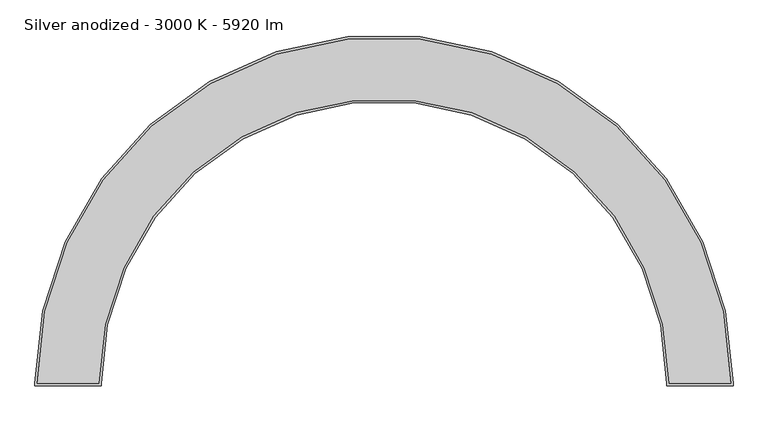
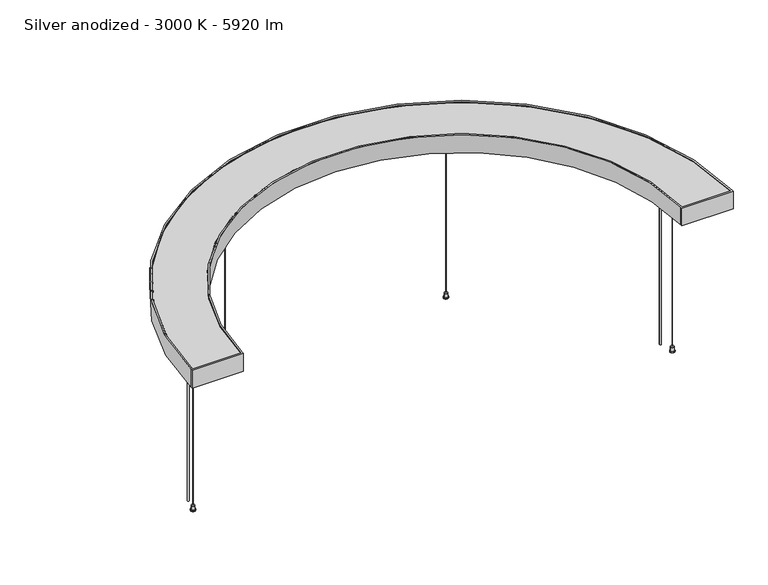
"""IFC4 building model written with IfcOpenShell, lengths in millimetres: light fixture geometry, KLUŚ - MIFOR - MI-SNAKE-06 : Silver anodized - 3000 K - 5920 lm."""

import ifcopenshell
import ifcopenshell.guid

model = None  # the IFC model being written
_history = None  # IfcOwnerHistory: only IFC2X3 demands one
_inside = {}  # id of a spatial element -> (the spatial element, [elements in it])
_under = {}  # id of a project, library or spatial element -> (it, [spatial elements below it])
_declared = {}  # id of a project -> (the project, [libraries it declares])
_typed = {}  # id of a type object -> (the type object, [elements of that type])
_made_of = {}  # id of a material, layer set ... -> (it, [elements and type objects made of it])


def new_model(schema):
    """Start an empty IFC model of exactly this schema.

    Asked for "IFC4X3", IfcOpenShell would pick the latest addendum, in which some entities
    have other attributes; the version numbers below select the first issue.
    IFC2X3 requires an IfcOwnerHistory on every rooted entity: one is made here for all.
    """
    global model, _history
    if schema == "IFC4X3":
        model = ifcopenshell.file(schema_version=(4, 3, 0, 0))
    else:
        model = ifcopenshell.file(schema=schema)
    _inside.clear()
    _under.clear()
    _declared.clear()
    _typed.clear()
    _made_of.clear()
    _history = None
    if model.schema == "IFC2X3":
        org = make("IfcOrganization", Name="unknown")
        user = make(
            "IfcPersonAndOrganization",
            ThePerson=make("IfcPerson", FamilyName="unknown"),
            TheOrganization=org,
        )
        app = make(
            "IfcApplication",
            ApplicationDeveloper=org,
            Version="unknown",
            ApplicationFullName="unknown",
            ApplicationIdentifier="unknown",
        )
        _history = make(
            "IfcOwnerHistory",
            OwningUser=user,
            OwningApplication=app,
            ChangeAction="ADDED",
            CreationDate=0,
        )
    return model


def make(cls, **values):
    """One entity of the class cls with the attributes given. An attribute that is None is left unset."""
    return model.create_entity(
        cls, **{name: value for name, value in values.items() if value is not None}
    )


def rooted(cls, **values):
    """An entity with a GlobalId (a new one), such as an element, a storey or a relation."""
    return make(cls, GlobalId=ifcopenshell.guid.new(), OwnerHistory=_history, **values)


def si_unit(unit_type, name, prefix=None):
    """IfcSIUnit, for example si_unit("LENGTHUNIT", "METRE", prefix="MILLI")."""
    return make("IfcSIUnit", UnitType=unit_type, Prefix=prefix, Name=name)


def assignment(units):
    """IfcUnitAssignment: the units of a project."""
    return None if units is None else make("IfcUnitAssignment", Units=units)


def point(xyz):
    """IfcCartesianPoint."""
    return None if xyz is None else make("IfcCartesianPoint", Coordinates=xyz)


def direction(xyz):
    """IfcDirection."""
    return None if xyz is None else make("IfcDirection", DirectionRatios=xyz)


def frame(location, z_axis=None, x_axis=None):
    """IfcAxis2Placement3D, a coordinate frame: its origin and axes. An axis left out is left unset."""
    return make(
        "IfcAxis2Placement3D",
        Location=point(location),
        Axis=direction(z_axis),
        RefDirection=direction(x_axis),
    )


def frame_2d(location, x_axis=None):
    """IfcAxis2Placement2D, a coordinate frame in the plane: its origin and x axis."""
    return make(
        "IfcAxis2Placement2D", Location=point(location), RefDirection=direction(x_axis)
    )


def origin():
    """The frame at (0, 0, 0) with its axes left unset."""
    return frame((0.0, 0.0, 0.0))


def origin_with_axes():
    """The frame at (0, 0, 0) with the z axis (0, 0, 1) and the x axis (1, 0, 0) written out."""
    return frame((0.0, 0.0, 0.0), z_axis=(0.0, 0.0, 1.0), x_axis=(1.0, 0.0, 0.0))


def place(relative_to, where):
    """IfcLocalPlacement: puts the frame where relative to a parent placement (None: the world)."""
    return make(
        "IfcLocalPlacement", PlacementRelTo=relative_to, RelativePlacement=where
    )


def context(
    kind, dimensions, precision=None, world=None, true_north=None, identifier=None
):
    """IfcGeometricRepresentationContext, for example the 3D "Model" context."""
    return make(
        "IfcGeometricRepresentationContext",
        ContextIdentifier=identifier,
        ContextType=kind,
        CoordinateSpaceDimension=dimensions,
        Precision=precision,
        WorldCoordinateSystem=world,
        TrueNorth=true_north,
    )


def project(units=None, contexts=None):
    """IfcProject with its units and contexts."""
    return rooted(
        "IfcProject",
        Name="project",
        RepresentationContexts=contexts,
        UnitsInContext=assignment(units),
    )


def spatial(cls, under=None, at=None, **own):
    """A site, building, storey or space (cls), placed at a placement, below another one or the project."""
    s = rooted(cls, ObjectPlacement=at, **own)
    if under is not None:
        _under.setdefault(under.id(), (under, []))[1].append(s)
    return s


def polyline(points):
    """IfcPolyline through the points."""
    return make("IfcPolyline", Points=[point(p) for p in points])


def circle_curve(where, radius):
    """IfcCircle in the frame where."""
    return make("IfcCircle", Position=where, Radius=radius)


def trimmed(basis, trim1, trim2, sense, master):
    """IfcTrimmedCurve: the piece of a basis curve between two trims."""
    return make(
        "IfcTrimmedCurve",
        BasisCurve=basis,
        Trim1=trim1,
        Trim2=trim2,
        SenseAgreement=sense,
        MasterRepresentation=master,
    )


def segment(curve, same_sense, transition):
    """IfcCompositeCurveSegment."""
    return make(
        "IfcCompositeCurveSegment",
        Transition=transition,
        SameSense=same_sense,
        ParentCurve=curve,
    )


def composite_curve(segments, self_intersect=None):
    """IfcCompositeCurve: segments joined end to end."""
    return make("IfcCompositeCurve", Segments=segments, SelfIntersect=self_intersect)


def outline(outer, holes=None, kind="AREA"):
    """IfcArbitraryClosedProfileDef: a profile drawn as a closed curve; with holes, ...WithVoids."""
    if holes is None:
        return make("IfcArbitraryClosedProfileDef", ProfileType=kind, OuterCurve=outer)
    return make(
        "IfcArbitraryProfileDefWithVoids",
        ProfileType=kind,
        OuterCurve=outer,
        InnerCurves=holes,
    )


def extrude(swept, where, along, depth):
    """IfcExtrudedAreaSolid: the profile swept, set in the frame where, extruded along a direction by depth."""
    return make(
        "IfcExtrudedAreaSolid",
        SweptArea=swept,
        Position=where,
        ExtrudedDirection=direction(along),
        Depth=depth,
    )


def shape(context_of_items, identifier, shape_type, items):
    """IfcShapeRepresentation: the items that make up one representation, for example the "Body"."""
    return make(
        "IfcShapeRepresentation",
        ContextOfItems=context_of_items,
        RepresentationIdentifier=identifier,
        RepresentationType=shape_type,
        Items=items,
    )


def source(mapping_origin, context_of_items, identifier, shape_type, items):
    """IfcRepresentationMap: a shape defined once, which mapped items show again and again."""
    return make(
        "IfcRepresentationMap",
        MappingOrigin=mapping_origin,
        MappedRepresentation=shape(context_of_items, identifier, shape_type, items),
    )


def transform(
    local_origin,
    x_axis=None,
    y_axis=None,
    z_axis=None,
    scale=None,
    scale2=None,
    scale3=None,
    uniform=True,
):
    """IfcCartesianTransformationOperator3D, or its non-uniform kind. x_axis, y_axis, z_axis: its Axis1, 2, 3."""
    if uniform:
        return make(
            "IfcCartesianTransformationOperator3D",
            Axis1=direction(x_axis),
            Axis2=direction(y_axis),
            LocalOrigin=point(local_origin),
            Scale=scale,
            Axis3=direction(z_axis),
        )
    return make(
        "IfcCartesianTransformationOperator3DnonUniform",
        Axis1=direction(x_axis),
        Axis2=direction(y_axis),
        LocalOrigin=point(local_origin),
        Scale=scale,
        Axis3=direction(z_axis),
        Scale2=scale2,
        Scale3=scale3,
    )


def mapped(mapping_source, mapping_target):
    """IfcMappedItem: shows the shape of a source again, moved by a transform."""
    return make(
        "IfcMappedItem", MappingSource=mapping_source, MappingTarget=mapping_target
    )


def made_of(thing, what):
    """Note that an element or type object is made of a material, layer set ...; save() writes the relation."""
    if what is not None:
        _made_of.setdefault(what.id(), (what, []))[1].append(thing)
    return thing


def element(
    cls,
    number,
    at=None,
    inside=None,
    cuts=None,
    type_object=None,
    material=None,
    context=None,
    identifier="Body",
    shape_type=None,
    held_by="IfcProductDefinitionShape",
    body=None,
    shapes=None,
    **own,
):
    """One element of the class cls, such as IfcWall. Its Tag is "e" and its number.

    at: its placement. inside: the storey or other place that contains it. cuts: it is an
    opening in that element (IfcRelVoidsElement). A single representation is given by context,
    identifier, shape_type and body (its items); several are given by shapes. held_by: the class
    of the entity that holds the representations. save() writes the other relations.
    """
    e = rooted(cls, Tag="e%d" % number, ObjectPlacement=at, **own)
    if body is not None:
        shapes = [shape(context, identifier, shape_type, body)]
    if shapes is not None:
        e.Representation = make(held_by, Representations=shapes)
    if inside is not None:
        _inside.setdefault(inside.id(), (inside, []))[1].append(e)
    if cuts is not None:
        rooted(
            "IfcRelVoidsElement", RelatingBuildingElement=cuts, RelatedOpeningElement=e
        )
    if type_object is not None:
        _typed.setdefault(type_object.id(), (type_object, []))[1].append(e)
    return made_of(e, material)


def aggregate(whole, parts):
    """IfcRelAggregates: a whole, such as a stair, and the parts it consists of."""
    return rooted("IfcRelAggregates", RelatingObject=whole, RelatedObjects=parts)


def save(model, path):
    """Write the relations noted so far, then the file.

    IfcRelAggregates (storeys below a building ...), IfcRelContainedInSpatialStructure (elements
    in a storey), IfcRelDefinesByType, IfcRelAssociatesMaterial and IfcRelDeclares: one each for
    every whole, place, type object, material and project.
    """
    for whole, parts in _under.values():
        aggregate(whole, parts)
    for where, things in _inside.values():
        rooted(
            "IfcRelContainedInSpatialStructure",
            RelatedElements=things,
            RelatingStructure=where,
        )
    for kind, things in _typed.values():
        rooted("IfcRelDefinesByType", RelatedObjects=things, RelatingType=kind)
    for what, things in _made_of.values():
        rooted("IfcRelAssociatesMaterial", RelatedObjects=things, RelatingMaterial=what)
    for by, libraries in _declared.values():
        rooted("IfcRelDeclares", RelatingContext=by, RelatedDefinitions=libraries)
    model.write(path)


def silver_anodized_3000_k_5920_lm_ace6beb4(model_context):
    return source(origin(), model_context, "Body", "SweptSolid", [
        extrude(outline(composite_curve([segment(trimmed(circle_curve(frame_2d((-699.8305152, -246.0)), 1.75), [point((-698.0805152, -246.0))], [point((-701.5805152, -246.0))], False, "CARTESIAN"), True, "CONTINUOUS"), segment(trimmed(circle_curve(frame_2d((-699.8305152, -246.0)), 1.75), [point((-701.5805152, -246.0))], [point((-698.0805152, -246.0))], False, "CARTESIAN"), True, "CONTINUOUS")], self_intersect=False)), frame((0.0, 0.0, 500.5), z_axis=(0.0, 0.0, 1.0), x_axis=(1.0, 0.0, 0.0)), (0.0, 0.0, 1.0), 3.5),
        extrude(outline(composite_curve([segment(trimmed(circle_curve(frame_2d((-322.7701934, 245.5003152)), 1.75), [point((-321.0201934, 245.5003152))], [point((-324.5201934, 245.5003152))], False, "CARTESIAN"), True, "CONTINUOUS"), segment(trimmed(circle_curve(frame_2d((-322.7701934, 245.5003152)), 1.75), [point((-324.5201934, 245.5003152))], [point((-321.0201934, 245.5003152))], False, "CARTESIAN"), True, "CONTINUOUS")], self_intersect=False)), frame((0.0, 0.0, 500.5), z_axis=(0.0, 0.0, 1.0), x_axis=(1.0, 0.0, 0.0)), (0.0, 0.0, 1.0), 3.5),
        extrude(outline(composite_curve([segment(trimmed(circle_curve(frame_2d((699.8305152, -246.0)), 1.75), [point((701.5805152, -246.0))], [point((698.0805152, -246.0))], False, "CARTESIAN"), True, "CONTINUOUS"), segment(trimmed(circle_curve(frame_2d((699.8305152, -246.0)), 1.75), [point((698.0805152, -246.0))], [point((701.5805152, -246.0))], False, "CARTESIAN"), True, "CONTINUOUS")], self_intersect=False)), frame((0.0, 0.0, 500.5), z_axis=(0.0, 0.0, 1.0), x_axis=(1.0, 0.0, 0.0)), (0.0, 0.0, 1.0), 3.5),
        extrude(outline(composite_curve([segment(trimmed(circle_curve(frame_2d((322.7701934, 245.5003152)), 1.75), [point((324.5201934, 245.5003152))], [point((321.0201934, 245.5003152))], False, "CARTESIAN"), True, "CONTINUOUS"), segment(trimmed(circle_curve(frame_2d((322.7701934, 245.5003152)), 1.75), [point((321.0201934, 245.5003152))], [point((324.5201934, 245.5003152))], False, "CARTESIAN"), True, "CONTINUOUS")], self_intersect=False)), frame((0.0, 0.0, 500.5), z_axis=(0.0, 0.0, 1.0), x_axis=(1.0, 0.0, 0.0)), (0.0, 0.0, 1.0), 3.5),
        extrude(outline(composite_curve([segment(trimmed(circle_curve(frame_2d((-699.8305152, -246.0)), 5.0), [point((-694.8305152, -246.0))], [point((-704.8305152, -246.0))], False, "CARTESIAN"), True, "CONTINUOUS"), segment(trimmed(circle_curve(frame_2d((-699.8305152, -246.0)), 5.0), [point((-704.8305152, -246.0))], [point((-694.8305152, -246.0))], False, "CARTESIAN"), True, "CONTINUOUS")], self_intersect=False)), frame((0.0, 0.0, 3.0), z_axis=(0.0, 0.0, 1.0), x_axis=(1.0, 0.0, 0.0)), (0.0, 0.0, 1.0), 12.0),
        extrude(outline(composite_curve([segment(trimmed(circle_curve(frame_2d((-322.7701934, 245.5003152)), 5.0), [point((-317.7701934, 245.5003152))], [point((-327.7701934, 245.5003152))], False, "CARTESIAN"), True, "CONTINUOUS"), segment(trimmed(circle_curve(frame_2d((-322.7701934, 245.5003152)), 5.0), [point((-327.7701934, 245.5003152))], [point((-317.7701934, 245.5003152))], False, "CARTESIAN"), True, "CONTINUOUS")], self_intersect=False)), frame((0.0, 0.0, 3.0), z_axis=(0.0, 0.0, 1.0), x_axis=(1.0, 0.0, 0.0)), (0.0, 0.0, 1.0), 12.0),
        extrude(outline(composite_curve([segment(trimmed(circle_curve(frame_2d((699.8305152, -246.0)), 5.0), [point((704.8305152, -246.0))], [point((694.8305152, -246.0))], False, "CARTESIAN"), True, "CONTINUOUS"), segment(trimmed(circle_curve(frame_2d((699.8305152, -246.0)), 5.0), [point((694.8305152, -246.0))], [point((704.8305152, -246.0))], False, "CARTESIAN"), True, "CONTINUOUS")], self_intersect=False)), frame((0.0, 0.0, 3.0), z_axis=(0.0, 0.0, 1.0), x_axis=(1.0, 0.0, 0.0)), (0.0, 0.0, 1.0), 12.0),
        extrude(outline(composite_curve([segment(trimmed(circle_curve(frame_2d((322.7701934, 245.5003152)), 5.0), [point((327.7701934, 245.5003152))], [point((317.7701934, 245.5003152))], False, "CARTESIAN"), True, "CONTINUOUS"), segment(trimmed(circle_curve(frame_2d((322.7701934, 245.5003152)), 5.0), [point((317.7701934, 245.5003152))], [point((327.7701934, 245.5003152))], False, "CARTESIAN"), True, "CONTINUOUS")], self_intersect=False)), frame((0.0, 0.0, 3.0), z_axis=(0.0, 0.0, 1.0), x_axis=(1.0, 0.0, 0.0)), (0.0, 0.0, 1.0), 12.0),
        extrude(outline(composite_curve([segment(trimmed(circle_curve(frame_2d((-689.6399045, -203.7626106)), 2.5), [point((-687.1399045, -203.7626106))], [point((-692.1399045, -203.7626106))], False, "CARTESIAN"), True, "CONTINUOUS"), segment(trimmed(circle_curve(frame_2d((-689.6399045, -203.7626106)), 2.5), [point((-692.1399045, -203.7626106))], [point((-687.1399045, -203.7626106))], False, "CARTESIAN"), True, "CONTINUOUS")], self_intersect=False)), origin_with_axes(), (0.0, 0.0, 1.0), 516.0),
        extrude(outline(composite_curve([segment(trimmed(circle_curve(frame_2d((689.6399045, -203.7626106)), 2.5), [point((692.1399045, -203.7626106))], [point((687.1399045, -203.7626106))], False, "CARTESIAN"), True, "CONTINUOUS"), segment(trimmed(circle_curve(frame_2d((689.6399045, -203.7626106)), 2.5), [point((687.1399045, -203.7626106))], [point((692.1399045, -203.7626106))], False, "CARTESIAN"), True, "CONTINUOUS")], self_intersect=False)), origin_with_axes(), (0.0, 0.0, 1.0), 516.0),
        extrude(outline(composite_curve([segment(polyline([(-645.0, -392.5), (-785.0, -392.5)]), True, "CONTINUOUS"), segment(trimmed(circle_curve(frame_2d((0.0, -392.5)), 785.0), [point((-785.0, -392.5))], [point((785.0, -392.5))], False, "CARTESIAN"), True, "CONTINUOUS"), segment(polyline([(785.0, -392.5), (645.0, -392.5)]), True, "CONTINUOUS"), segment(trimmed(circle_curve(frame_2d((0.0, -392.5)), 645.0), [point((645.0, -392.5))], [point((-645.0, -392.5))], True, "CARTESIAN"), True, "CONTINUOUS")], self_intersect=False)), frame((0.0, 0.0, 516.0), z_axis=(0.0, 0.0, 1.0), x_axis=(1.0, 0.0, 0.0)), (0.0, 0.0, 1.0), 2.0),
        extrude(outline(composite_curve([segment(polyline([(-645.0, -392.5), (-785.0, -392.5)]), True, "CONTINUOUS"), segment(trimmed(circle_curve(frame_2d((0.0, -392.5)), 785.0), [point((-785.0, -392.5))], [point((785.0, -392.5))], False, "CARTESIAN"), True, "CONTINUOUS"), segment(polyline([(785.0, -392.5), (645.0, -392.5)]), True, "CONTINUOUS"), segment(trimmed(circle_curve(frame_2d((0.0, -392.5)), 645.0), [point((645.0, -392.5))], [point((-645.0, -392.5))], True, "CARTESIAN"), True, "CONTINUOUS")], self_intersect=False)), frame((0.0, 0.0, 551.0), z_axis=(0.0, 0.0, 1.0), x_axis=(1.0, 0.0, 0.0)), (0.0, 0.0, 1.0), 2.0),
        extrude(outline(composite_curve([segment(polyline([(-640.0, -392.5), (-640.0, -397.5), (-790.0, -397.5), (-790.0, -392.5)]), True, "CONTINUOUS"), segment(trimmed(circle_curve(frame_2d((0.0, -392.5)), 790.0), [point((-790.0, -392.5))], [point((790.0, -392.5))], False, "CARTESIAN"), True, "CONTINUOUS"), segment(polyline([(790.0, -392.5), (790.0, -397.5), (640.0, -397.5), (640.0, -392.5)]), True, "CONTINUOUS"), segment(trimmed(circle_curve(frame_2d((0.0, -392.5)), 640.0), [point((640.0, -392.5))], [point((-640.0, -392.5))], True, "CARTESIAN"), True, "CONTINUOUS")], self_intersect=False), holes=[composite_curve([segment(trimmed(circle_curve(frame_2d((0.0, -392.5)), 645.0), [point((-645.0, -392.5))], [point((645.0, -392.5))], False, "CARTESIAN"), True, "CONTINUOUS"), segment(polyline([(645.0, -392.5), (785.0, -392.5)]), True, "CONTINUOUS"), segment(trimmed(circle_curve(frame_2d((0.0, -392.5)), 785.0), [point((785.0, -392.5))], [point((-785.0, -392.5))], True, "CARTESIAN"), True, "CONTINUOUS"), segment(polyline([(-785.0, -392.5), (-645.0, -392.5)]), True, "CONTINUOUS")], self_intersect=False)]), frame((0.0, 0.0, 500.0), z_axis=(0.0, 0.0, 1.0), x_axis=(1.0, 0.0, 0.0)), (0.0, 0.0, 1.0), 55.0),
        extrude(outline(composite_curve([segment(trimmed(circle_curve(frame_2d((-699.8305152, -246.0)), 0.5), [point((-699.3305152, -246.0))], [point((-700.3305152, -246.0))], False, "CARTESIAN"), True, "CONTINUOUS"), segment(trimmed(circle_curve(frame_2d((-699.8305152, -246.0)), 0.5), [point((-700.3305152, -246.0))], [point((-699.3305152, -246.0))], False, "CARTESIAN"), True, "CONTINUOUS")], self_intersect=False)), frame((0.0, 0.0, 15.0), z_axis=(0.0, 0.0, 1.0), x_axis=(1.0, 0.0, 0.0)), (0.0, 0.0, 1.0), 485.5),
        extrude(outline(composite_curve([segment(trimmed(circle_curve(frame_2d((-322.7701934, 245.5003152)), 0.5), [point((-322.2701934, 245.5003152))], [point((-323.2701934, 245.5003152))], False, "CARTESIAN"), True, "CONTINUOUS"), segment(trimmed(circle_curve(frame_2d((-322.7701934, 245.5003152)), 0.5), [point((-323.2701934, 245.5003152))], [point((-322.2701934, 245.5003152))], False, "CARTESIAN"), True, "CONTINUOUS")], self_intersect=False)), frame((0.0, 0.0, 15.0), z_axis=(0.0, 0.0, 1.0), x_axis=(1.0, 0.0, 0.0)), (0.0, 0.0, 1.0), 485.5),
        extrude(outline(composite_curve([segment(trimmed(circle_curve(frame_2d((699.8305152, -246.0)), 0.5), [point((700.3305152, -246.0))], [point((699.3305152, -246.0))], False, "CARTESIAN"), True, "CONTINUOUS"), segment(trimmed(circle_curve(frame_2d((699.8305152, -246.0)), 0.5), [point((699.3305152, -246.0))], [point((700.3305152, -246.0))], False, "CARTESIAN"), True, "CONTINUOUS")], self_intersect=False)), frame((0.0, 0.0, 15.0), z_axis=(0.0, 0.0, 1.0), x_axis=(1.0, 0.0, 0.0)), (0.0, 0.0, 1.0), 485.5),
        extrude(outline(composite_curve([segment(trimmed(circle_curve(frame_2d((322.7701934, 245.5003152)), 0.5), [point((323.2701934, 245.5003152))], [point((322.2701934, 245.5003152))], False, "CARTESIAN"), True, "CONTINUOUS"), segment(trimmed(circle_curve(frame_2d((322.7701934, 245.5003152)), 0.5), [point((322.2701934, 245.5003152))], [point((323.2701934, 245.5003152))], False, "CARTESIAN"), True, "CONTINUOUS")], self_intersect=False)), frame((0.0, 0.0, 15.0), z_axis=(0.0, 0.0, 1.0), x_axis=(1.0, 0.0, 0.0)), (0.0, 0.0, 1.0), 485.5),
        extrude(outline(composite_curve([segment(trimmed(circle_curve(frame_2d((-322.7701934, 245.5003152)), 4.0), [point((-318.7701934, 245.5003152))], [point((-326.7701934, 245.5003152))], False, "CARTESIAN"), True, "CONTINUOUS"), segment(trimmed(circle_curve(frame_2d((-322.7701934, 245.5003152)), 4.0), [point((-326.7701934, 245.5003152))], [point((-318.7701934, 245.5003152))], False, "CARTESIAN"), True, "CONTINUOUS")], self_intersect=False)), frame((0.0, 0.0, 504.0), z_axis=(0.0, 0.0, 1.0), x_axis=(1.0, 0.0, 0.0)), (0.0, 0.0, 1.0), 12.0),
        extrude(outline(composite_curve([segment(trimmed(circle_curve(frame_2d((-699.8305152, -246.0)), 4.0), [point((-695.8305152, -246.0))], [point((-703.8305152, -246.0))], False, "CARTESIAN"), True, "CONTINUOUS"), segment(trimmed(circle_curve(frame_2d((-699.8305152, -246.0)), 4.0), [point((-703.8305152, -246.0))], [point((-695.8305152, -246.0))], False, "CARTESIAN"), True, "CONTINUOUS")], self_intersect=False)), frame((0.0, 0.0, 504.0), z_axis=(0.0, 0.0, 1.0), x_axis=(1.0, 0.0, 0.0)), (0.0, 0.0, 1.0), 12.0),
        extrude(outline(composite_curve([segment(trimmed(circle_curve(frame_2d((322.7701934, 245.5003152)), 4.0), [point((326.7701934, 245.5003152))], [point((318.7701934, 245.5003152))], False, "CARTESIAN"), True, "CONTINUOUS"), segment(trimmed(circle_curve(frame_2d((322.7701934, 245.5003152)), 4.0), [point((318.7701934, 245.5003152))], [point((326.7701934, 245.5003152))], False, "CARTESIAN"), True, "CONTINUOUS")], self_intersect=False)), frame((0.0, 0.0, 504.0), z_axis=(0.0, 0.0, 1.0), x_axis=(1.0, 0.0, 0.0)), (0.0, 0.0, 1.0), 12.0),
        extrude(outline(composite_curve([segment(trimmed(circle_curve(frame_2d((699.8305152, -246.0)), 4.0), [point((703.8305152, -246.0))], [point((695.8305152, -246.0))], False, "CARTESIAN"), True, "CONTINUOUS"), segment(trimmed(circle_curve(frame_2d((699.8305152, -246.0)), 4.0), [point((695.8305152, -246.0))], [point((703.8305152, -246.0))], False, "CARTESIAN"), True, "CONTINUOUS")], self_intersect=False)), frame((0.0, 0.0, 504.0), z_axis=(0.0, 0.0, 1.0), x_axis=(1.0, 0.0, 0.0)), (0.0, 0.0, 1.0), 12.0),
        extrude(outline(composite_curve([segment(trimmed(circle_curve(frame_2d((-699.8305152, -246.0)), 7.0), [point((-692.8305152, -246.0))], [point((-706.8305152, -246.0))], False, "CARTESIAN"), True, "CONTINUOUS"), segment(trimmed(circle_curve(frame_2d((-699.8305152, -246.0)), 7.0), [point((-706.8305152, -246.0))], [point((-692.8305152, -246.0))], False, "CARTESIAN"), True, "CONTINUOUS")], self_intersect=False)), origin_with_axes(), (0.0, 0.0, 1.0), 3.0),
        extrude(outline(composite_curve([segment(trimmed(circle_curve(frame_2d((-322.7701934, 245.5003152)), 7.0), [point((-315.7701934, 245.5003152))], [point((-329.7701934, 245.5003152))], False, "CARTESIAN"), True, "CONTINUOUS"), segment(trimmed(circle_curve(frame_2d((-322.7701934, 245.5003152)), 7.0), [point((-329.7701934, 245.5003152))], [point((-315.7701934, 245.5003152))], False, "CARTESIAN"), True, "CONTINUOUS")], self_intersect=False)), origin_with_axes(), (0.0, 0.0, 1.0), 3.0),
        extrude(outline(composite_curve([segment(trimmed(circle_curve(frame_2d((699.8305152, -246.0)), 7.0), [point((706.8305152, -246.0))], [point((692.8305152, -246.0))], False, "CARTESIAN"), True, "CONTINUOUS"), segment(trimmed(circle_curve(frame_2d((699.8305152, -246.0)), 7.0), [point((692.8305152, -246.0))], [point((706.8305152, -246.0))], False, "CARTESIAN"), True, "CONTINUOUS")], self_intersect=False)), origin_with_axes(), (0.0, 0.0, 1.0), 3.0),
        extrude(outline(composite_curve([segment(trimmed(circle_curve(frame_2d((322.7701934, 245.5003152)), 7.0), [point((329.7701934, 245.5003152))], [point((315.7701934, 245.5003152))], False, "CARTESIAN"), True, "CONTINUOUS"), segment(trimmed(circle_curve(frame_2d((322.7701934, 245.5003152)), 7.0), [point((315.7701934, 245.5003152))], [point((329.7701934, 245.5003152))], False, "CARTESIAN"), True, "CONTINUOUS")], self_intersect=False)), origin_with_axes(), (0.0, 0.0, 1.0), 3.0),
    ])


if __name__ == "__main__":
    model = new_model("IFC4")
    model_context = context("Model", 3, world=origin())
    ifc_project = project(units=[si_unit("LENGTHUNIT", "METRE", prefix="MILLI")], contexts=[model_context])
    site = spatial("IfcSite", under=ifc_project)
    building = spatial("IfcBuilding", under=site)
    placement = place(None, origin())
    silver_anodized_3000_k_5920_lm_shape = silver_anodized_3000_k_5920_lm_ace6beb4(model_context)
    element("IfcLightFixture", 1, ObjectType="KLUŚ - MIFOR - MI-SNAKE-06 : Silver anodized - 3000 K - 5920 lm", at=placement, inside=building, context=model_context, shape_type="MappedRepresentation", body=[
        mapped(silver_anodized_3000_k_5920_lm_shape, transform((0.0, 0.0, 0.0), x_axis=(1.0, 0.0, 0.0), y_axis=(0.0, 1.0, 0.0), z_axis=(0.0, 0.0, 1.0))),
    ])
    save(model, "model.ifc")
